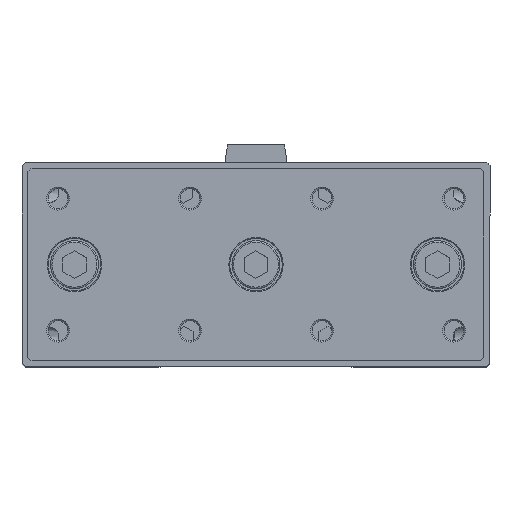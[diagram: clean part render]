
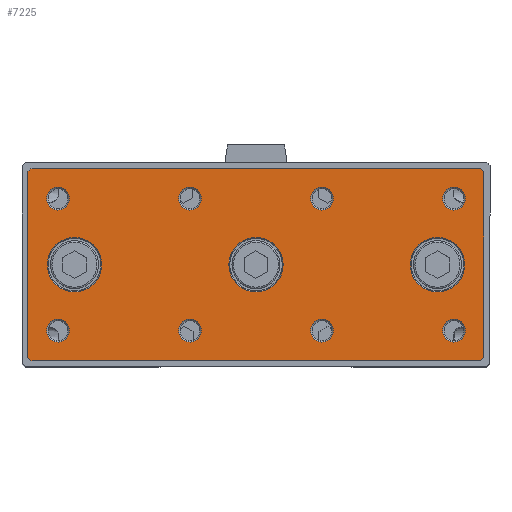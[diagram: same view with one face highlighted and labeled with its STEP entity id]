
A CAD part, top view. The second image highlights one B-rep face of the part: STEP entity #7225.
In plain terms, the highlighted planar face has unit normal (0, 0, 1).
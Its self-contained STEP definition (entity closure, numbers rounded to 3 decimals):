
#6983=CARTESIAN_POINT('',(-82.057,-30.206,196.6));
#6984=VERTEX_POINT('',#6983);
#6985=CARTESIAN_POINT('',(-83.057,-29.206,196.6));
#6986=VERTEX_POINT('',#6985);
#6987=CARTESIAN_POINT('',(-82.057,-30.206,196.6));
#6988=DIRECTION('',(-0.707,0.707,0.0));
#6989=VECTOR('',#6988,1.414);
#6990=LINE('',#6987,#6989);
#6991=EDGE_CURVE('',#6984,#6986,#6990,.T.);
#7024=CARTESIAN_POINT('',(-83.057,32.794,196.6));
#7025=VERTEX_POINT('',#7024);
#7026=CARTESIAN_POINT('',(-83.057,-29.206,196.6));
#7027=DIRECTION('',(0.0,1.0,0.0));
#7028=VECTOR('',#7027,62.);
#7029=LINE('',#7026,#7028);
#7030=EDGE_CURVE('',#6986,#7025,#7029,.T.);
#7049=CARTESIAN_POINT('',(-7.057,1.794,196.6));
#7050=DIRECTION('',(0.0,0.0,1.0));
#7051=DIRECTION('',(1.0,0.0,0.0));
#7052=AXIS2_PLACEMENT_3D('',#7049,#7050,#7051);
#7053=PLANE('',#7052);
#7054=ORIENTED_EDGE('',*,*,#6991,.F.);
#7055=CARTESIAN_POINT('',(67.943,-30.206,196.6));
#7056=VERTEX_POINT('',#7055);
#7057=CARTESIAN_POINT('',(67.943,-30.206,196.6));
#7058=DIRECTION('',(-1.0,0.0,0.0));
#7059=VECTOR('',#7058,150.0);
#7060=LINE('',#7057,#7059);
#7061=EDGE_CURVE('',#7056,#6984,#7060,.T.);
#7062=ORIENTED_EDGE('',*,*,#7061,.F.);
#7063=CARTESIAN_POINT('',(68.943,-29.206,196.6));
#7064=VERTEX_POINT('',#7063);
#7065=CARTESIAN_POINT('',(68.943,-29.206,196.6));
#7066=DIRECTION('',(-0.707,-0.707,0.0));
#7067=VECTOR('',#7066,1.414);
#7068=LINE('',#7065,#7067);
#7069=EDGE_CURVE('',#7064,#7056,#7068,.T.);
#7070=ORIENTED_EDGE('',*,*,#7069,.F.);
#7071=CARTESIAN_POINT('',(68.943,32.794,196.6));
#7072=VERTEX_POINT('',#7071);
#7073=CARTESIAN_POINT('',(68.943,32.794,196.6));
#7074=DIRECTION('',(0.0,-1.0,0.0));
#7075=VECTOR('',#7074,62.);
#7076=LINE('',#7073,#7075);
#7077=EDGE_CURVE('',#7072,#7064,#7076,.T.);
#7078=ORIENTED_EDGE('',*,*,#7077,.F.);
#7079=CARTESIAN_POINT('',(67.943,33.794,196.6));
#7080=VERTEX_POINT('',#7079);
#7081=CARTESIAN_POINT('',(67.943,33.794,196.6));
#7082=DIRECTION('',(0.707,-0.707,0.0));
#7083=VECTOR('',#7082,1.414);
#7084=LINE('',#7081,#7083);
#7085=EDGE_CURVE('',#7080,#7072,#7084,.T.);
#7086=ORIENTED_EDGE('',*,*,#7085,.F.);
#7087=CARTESIAN_POINT('',(-82.057,33.794,196.6));
#7088=VERTEX_POINT('',#7087);
#7089=CARTESIAN_POINT('',(-82.057,33.794,196.6));
#7090=DIRECTION('',(1.0,0.0,0.0));
#7091=VECTOR('',#7090,150.);
#7092=LINE('',#7089,#7091);
#7093=EDGE_CURVE('',#7088,#7080,#7092,.T.);
#7094=ORIENTED_EDGE('',*,*,#7093,.F.);
#7095=CARTESIAN_POINT('',(-83.057,32.794,196.6));
#7096=DIRECTION('',(0.707,0.707,0.0));
#7097=VECTOR('',#7096,1.414);
#7098=LINE('',#7095,#7097);
#7099=EDGE_CURVE('',#7025,#7088,#7098,.T.);
#7100=ORIENTED_EDGE('',*,*,#7099,.F.);
#7101=ORIENTED_EDGE('',*,*,#7030,.F.);
#7102=EDGE_LOOP('',(#7054,#7062,#7070,#7078,#7086,#7094,#7100,#7101));
#7103=FACE_OUTER_BOUND('',#7102,.T.);
#7104=CARTESIAN_POINT('',(-58.507,1.794,196.6));
#7105=VERTEX_POINT('',#7104);
#7106=CARTESIAN_POINT('',(-67.557,1.794,196.6));
#7107=DIRECTION('',(0.0,0.0,1.0));
#7108=DIRECTION('',(-1.0,0.0,0.0));
#7109=AXIS2_PLACEMENT_3D('',#7106,#7107,#7108);
#7110=CIRCLE('',#7109,9.05);
#7111=EDGE_CURVE('',#7105,#7105,#7110,.T.);
#7112=ORIENTED_EDGE('',*,*,#7111,.F.);
#7113=EDGE_LOOP('',(#7112));
#7114=FACE_BOUND('',#7113,.T.);
#7115=CARTESIAN_POINT('',(62.766,-20.206,196.6));
#7116=VERTEX_POINT('',#7115);
#7117=CARTESIAN_POINT('',(58.943,-20.206,196.6));
#7118=DIRECTION('',(0.0,0.0,1.0));
#7119=DIRECTION('',(-1.0,0.0,0.0));
#7120=AXIS2_PLACEMENT_3D('',#7117,#7118,#7119);
#7121=CIRCLE('',#7120,3.823);
#7122=EDGE_CURVE('',#7116,#7116,#7121,.T.);
#7123=ORIENTED_EDGE('',*,*,#7122,.F.);
#7124=EDGE_LOOP('',(#7123));
#7125=FACE_BOUND('',#7124,.T.);
#7126=CARTESIAN_POINT('',(-69.234,-20.206,196.6));
#7127=VERTEX_POINT('',#7126);
#7128=CARTESIAN_POINT('',(-73.057,-20.206,196.6));
#7129=DIRECTION('',(0.0,0.0,1.0));
#7130=DIRECTION('',(-1.0,0.0,0.0));
#7131=AXIS2_PLACEMENT_3D('',#7128,#7129,#7130);
#7132=CIRCLE('',#7131,3.823);
#7133=EDGE_CURVE('',#7127,#7127,#7132,.T.);
#7134=ORIENTED_EDGE('',*,*,#7133,.F.);
#7135=EDGE_LOOP('',(#7134));
#7136=FACE_BOUND('',#7135,.T.);
#7137=CARTESIAN_POINT('',(62.766,23.794,196.6));
#7138=VERTEX_POINT('',#7137);
#7139=CARTESIAN_POINT('',(58.943,23.794,196.6));
#7140=DIRECTION('',(0.0,0.0,1.0));
#7141=DIRECTION('',(-1.0,0.0,0.0));
#7142=AXIS2_PLACEMENT_3D('',#7139,#7140,#7141);
#7143=CIRCLE('',#7142,3.823);
#7144=EDGE_CURVE('',#7138,#7138,#7143,.T.);
#7145=ORIENTED_EDGE('',*,*,#7144,.F.);
#7146=EDGE_LOOP('',(#7145));
#7147=FACE_BOUND('',#7146,.T.);
#7148=CARTESIAN_POINT('',(-69.234,23.794,196.6));
#7149=VERTEX_POINT('',#7148);
#7150=CARTESIAN_POINT('',(-73.057,23.794,196.6));
#7151=DIRECTION('',(0.0,0.0,1.0));
#7152=DIRECTION('',(-1.0,0.0,0.0));
#7153=AXIS2_PLACEMENT_3D('',#7150,#7151,#7152);
#7154=CIRCLE('',#7153,3.823);
#7155=EDGE_CURVE('',#7149,#7149,#7154,.T.);
#7156=ORIENTED_EDGE('',*,*,#7155,.F.);
#7157=EDGE_LOOP('',(#7156));
#7158=FACE_BOUND('',#7157,.T.);
#7159=CARTESIAN_POINT('',(18.766,-20.206,196.6));
#7160=VERTEX_POINT('',#7159);
#7161=CARTESIAN_POINT('',(14.943,-20.206,196.6));
#7162=DIRECTION('',(0.0,0.0,1.0));
#7163=DIRECTION('',(-1.0,0.0,0.0));
#7164=AXIS2_PLACEMENT_3D('',#7161,#7162,#7163);
#7165=CIRCLE('',#7164,3.824);
#7166=EDGE_CURVE('',#7160,#7160,#7165,.T.);
#7167=ORIENTED_EDGE('',*,*,#7166,.F.);
#7168=EDGE_LOOP('',(#7167));
#7169=FACE_BOUND('',#7168,.T.);
#7170=CARTESIAN_POINT('',(-25.234,-20.206,196.6));
#7171=VERTEX_POINT('',#7170);
#7172=CARTESIAN_POINT('',(-29.057,-20.206,196.6));
#7173=DIRECTION('',(0.0,0.0,1.0));
#7174=DIRECTION('',(-1.0,0.0,0.0));
#7175=AXIS2_PLACEMENT_3D('',#7172,#7173,#7174);
#7176=CIRCLE('',#7175,3.823);
#7177=EDGE_CURVE('',#7171,#7171,#7176,.T.);
#7178=ORIENTED_EDGE('',*,*,#7177,.F.);
#7179=EDGE_LOOP('',(#7178));
#7180=FACE_BOUND('',#7179,.T.);
#7181=CARTESIAN_POINT('',(18.766,23.794,196.6));
#7182=VERTEX_POINT('',#7181);
#7183=CARTESIAN_POINT('',(14.943,23.794,196.6));
#7184=DIRECTION('',(0.0,0.0,1.0));
#7185=DIRECTION('',(-1.0,0.0,0.0));
#7186=AXIS2_PLACEMENT_3D('',#7183,#7184,#7185);
#7187=CIRCLE('',#7186,3.824);
#7188=EDGE_CURVE('',#7182,#7182,#7187,.T.);
#7189=ORIENTED_EDGE('',*,*,#7188,.F.);
#7190=EDGE_LOOP('',(#7189));
#7191=FACE_BOUND('',#7190,.T.);
#7192=CARTESIAN_POINT('',(-25.234,23.794,196.6));
#7193=VERTEX_POINT('',#7192);
#7194=CARTESIAN_POINT('',(-29.057,23.794,196.6));
#7195=DIRECTION('',(0.0,0.0,1.0));
#7196=DIRECTION('',(-1.0,0.0,0.0));
#7197=AXIS2_PLACEMENT_3D('',#7194,#7195,#7196);
#7198=CIRCLE('',#7197,3.823);
#7199=EDGE_CURVE('',#7193,#7193,#7198,.T.);
#7200=ORIENTED_EDGE('',*,*,#7199,.F.);
#7201=EDGE_LOOP('',(#7200));
#7202=FACE_BOUND('',#7201,.T.);
#7203=CARTESIAN_POINT('',(62.493,1.794,196.6));
#7204=VERTEX_POINT('',#7203);
#7205=CARTESIAN_POINT('',(53.443,1.794,196.6));
#7206=DIRECTION('',(0.0,0.0,1.0));
#7207=DIRECTION('',(-1.0,0.0,0.0));
#7208=AXIS2_PLACEMENT_3D('',#7205,#7206,#7207);
#7209=CIRCLE('',#7208,9.05);
#7210=EDGE_CURVE('',#7204,#7204,#7209,.T.);
#7211=ORIENTED_EDGE('',*,*,#7210,.F.);
#7212=EDGE_LOOP('',(#7211));
#7213=FACE_BOUND('',#7212,.T.);
#7214=CARTESIAN_POINT('',(1.993,1.794,196.6));
#7215=VERTEX_POINT('',#7214);
#7216=CARTESIAN_POINT('',(-7.057,1.794,196.6));
#7217=DIRECTION('',(0.0,0.0,1.0));
#7218=DIRECTION('',(-1.0,0.0,0.0));
#7219=AXIS2_PLACEMENT_3D('',#7216,#7217,#7218);
#7220=CIRCLE('',#7219,9.05);
#7221=EDGE_CURVE('',#7215,#7215,#7220,.T.);
#7222=ORIENTED_EDGE('',*,*,#7221,.F.);
#7223=EDGE_LOOP('',(#7222));
#7224=FACE_BOUND('',#7223,.T.);
#7225=ADVANCED_FACE('',(#7103,#7114,#7125,#7136,#7147,#7158,#7169,#7180,#7191,#7202,#7213,#7224),#7053,.T.);
